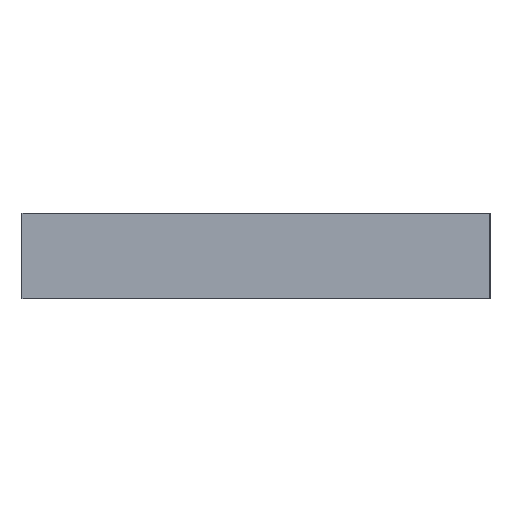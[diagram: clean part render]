
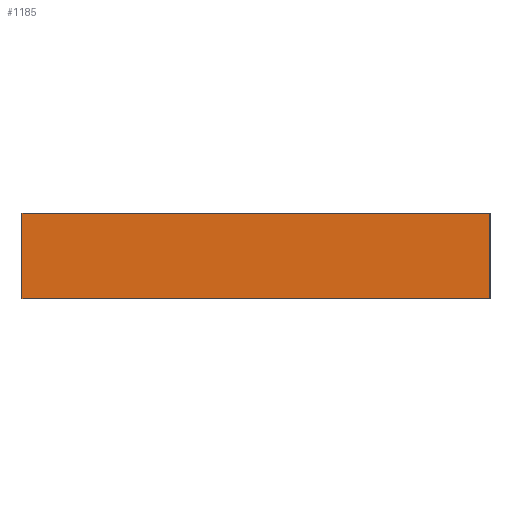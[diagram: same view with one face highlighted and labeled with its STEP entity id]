
A CAD part, left-side view. The second image highlights one B-rep face of the part: STEP entity #1185.
In plain terms, the highlighted planar face has unit normal (-1, 0, 0).
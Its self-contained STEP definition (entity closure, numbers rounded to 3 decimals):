
#63 = CARTESIAN_POINT ( 'NONE',  ( 0., 0., 20. ) ) ;
#94 = LINE ( 'NONE', #498, #525 ) ;
#167 = VERTEX_POINT ( 'NONE', #1609 ) ;
#294 = VECTOR ( 'NONE', #596, 1000. ) ;
#344 = ORIENTED_EDGE ( 'NONE', *, *, #2175, .F. ) ;
#376 = EDGE_CURVE ( 'NONE', #1539, #2001, #1139, .T. ) ;
#418 = CARTESIAN_POINT ( 'NONE',  ( 0., 110., 0. ) ) ;
#498 = CARTESIAN_POINT ( 'NONE',  ( 0., 0., 0. ) ) ;
#525 = VECTOR ( 'NONE', #1408, 1000. ) ;
#533 = VECTOR ( 'NONE', #1656, 1000. ) ;
#596 = DIRECTION ( 'NONE',  ( 0., 0., -1. ) ) ;
#607 = CARTESIAN_POINT ( 'NONE',  ( 0., 0., 20. ) ) ;
#610 = ORIENTED_EDGE ( 'NONE', *, *, #1016, .T. ) ;
#681 = VECTOR ( 'NONE', #1364, 1000. ) ;
#744 = CARTESIAN_POINT ( 'NONE',  ( 0., 110., 20. ) ) ;
#767 = VERTEX_POINT ( 'NONE', #2228 ) ;
#994 = FACE_OUTER_BOUND ( 'NONE', #1995, .T. ) ;
#1016 = EDGE_CURVE ( 'NONE', #2001, #767, #94, .T. ) ;
#1139 = LINE ( 'NONE', #2054, #294 ) ;
#1152 = DIRECTION ( 'NONE',  ( 0., 0., -1. ) ) ;
#1185 = ADVANCED_FACE ( 'NONE', ( #994 ), #2238, .F. ) ;
#1364 = DIRECTION ( 'NONE',  ( 0., -1., 0. ) ) ;
#1368 = LINE ( 'NONE', #2209, #681 ) ;
#1408 = DIRECTION ( 'NONE',  ( 0., -1., 0. ) ) ;
#1428 = LINE ( 'NONE', #607, #533 ) ;
#1477 = DIRECTION ( 'NONE',  ( 1., 0., 0. ) ) ;
#1518 = AXIS2_PLACEMENT_3D ( 'NONE', #63, #1477, #1152 ) ;
#1539 = VERTEX_POINT ( 'NONE', #744 ) ;
#1609 = CARTESIAN_POINT ( 'NONE',  ( 0., 0., 20. ) ) ;
#1656 = DIRECTION ( 'NONE',  ( 0., 0., -1. ) ) ;
#1828 = ORIENTED_EDGE ( 'NONE', *, *, #1924, .F. ) ;
#1924 = EDGE_CURVE ( 'NONE', #167, #767, #1428, .T. ) ;
#1995 = EDGE_LOOP ( 'NONE', ( #610, #1828, #344, #2066 ) ) ;
#2001 = VERTEX_POINT ( 'NONE', #418 ) ;
#2054 = CARTESIAN_POINT ( 'NONE',  ( 0., 110., 20. ) ) ;
#2066 = ORIENTED_EDGE ( 'NONE', *, *, #376, .T. ) ;
#2175 = EDGE_CURVE ( 'NONE', #1539, #167, #1368, .T. ) ;
#2209 = CARTESIAN_POINT ( 'NONE',  ( 0., 0., 20. ) ) ;
#2228 = CARTESIAN_POINT ( 'NONE',  ( 0., 0., 0. ) ) ;
#2238 = PLANE ( 'NONE',  #1518 ) ;
